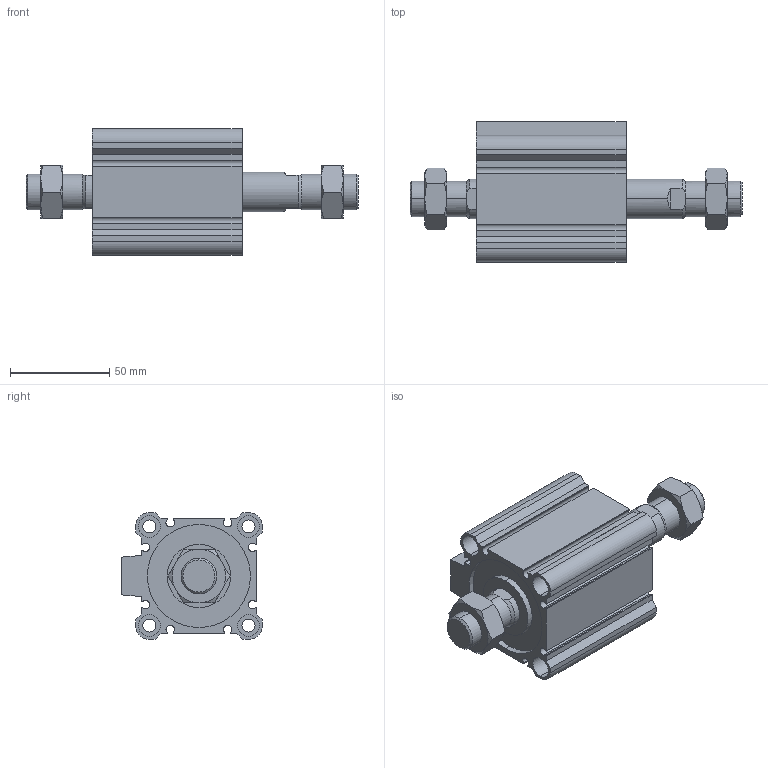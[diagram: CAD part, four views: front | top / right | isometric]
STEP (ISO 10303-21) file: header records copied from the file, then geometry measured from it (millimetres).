
FILE_DESCRIPTION (( 'STEP AP203' ), '1' );
FILE_NAME ('CCMB50-25M-P.STEP', '2020-08-10T11:43:12', ( '' ), ( '' ), 'SwSTEP 2.0', 'SolidWorks 2019', '' );
FILE_SCHEMA (( 'CONFIG_CONTROL_DESIGN' ));
Length unit declared in the file: millimetre
Products named in the file (1): CCMB50-25M-P
Bounding box: 167.5 x 71 x 64 mm (x, y, z)
Volume: 243581.1 mm3; surface area: 76037.4 mm2
Topology: 4 solids, 4 shells, 220 faces, 534 edges, 340 vertices
Faces by surface type: plane 98, cylinder 78, cone 44
Entity records: 7173 total; most frequent: CARTESIAN_POINT 1867, DIRECTION 1116, ORIENTED_EDGE 1068, EDGE_CURVE 534, AXIS2_PLACEMENT_3D 425, VERTEX_POINT 340, LINE 266, VECTOR 266
